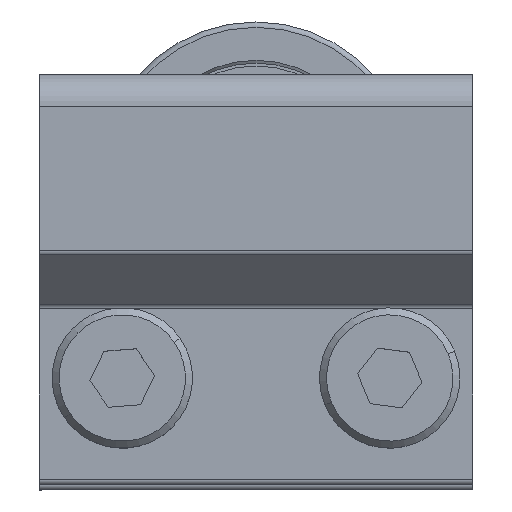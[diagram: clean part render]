
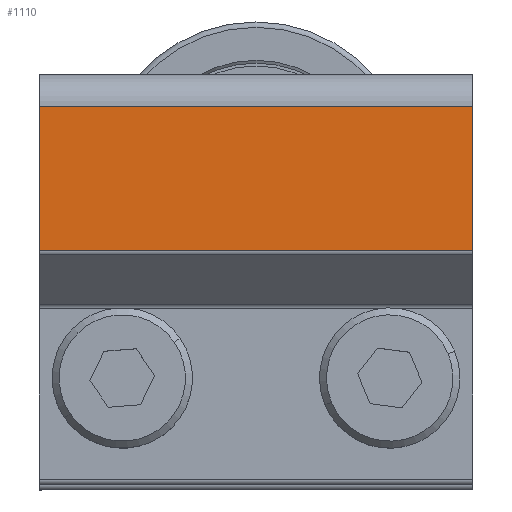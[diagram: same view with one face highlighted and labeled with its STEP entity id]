
A CAD part, top view. The second image highlights one B-rep face of the part: STEP entity #1110.
In plain terms, the highlighted planar face has unit normal (0, 0, 1) as drawn and (1, 0, 0) by its records, which use the part's own axes.
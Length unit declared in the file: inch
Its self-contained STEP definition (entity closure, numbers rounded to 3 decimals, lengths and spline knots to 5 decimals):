
#604=DIRECTION('',(0.,0.,1.));
#605=VECTOR('',#604,1.216);
#606=CARTESIAN_POINT('',(0.375,0.35921,-0.608));
#607=LINE('',#606,#605);
#608=DIRECTION('',(0.,-1.,0.));
#609=VECTOR('',#608,0.40379);
#610=CARTESIAN_POINT('',(0.375,0.763,-0.608));
#611=LINE('',#610,#609);
#689=DIRECTION('',(0.,-1.,0.));
#690=VECTOR('',#689,0.40379);
#691=CARTESIAN_POINT('',(0.375,0.763,0.608));
#692=LINE('',#691,#690);
#693=DIRECTION('',(0.,0.,-1.));
#694=VECTOR('',#693,1.216);
#695=CARTESIAN_POINT('',(0.375,0.763,0.608));
#696=LINE('',#695,#694);
#895=CARTESIAN_POINT('',(0.375,0.35921,-0.608));
#896=VERTEX_POINT('',#895);
#903=CARTESIAN_POINT('',(0.375,0.35921,0.608));
#904=VERTEX_POINT('',#903);
#915=CARTESIAN_POINT('',(0.375,0.763,-0.608));
#916=VERTEX_POINT('',#915);
#917=CARTESIAN_POINT('',(0.375,0.763,0.608));
#918=VERTEX_POINT('',#917);
#1098=CARTESIAN_POINT('',(0.375,0.763,0.608));
#1099=DIRECTION('',(-1.,0.,0.));
#1100=DIRECTION('',(0.,-1.,0.));
#1101=AXIS2_PLACEMENT_3D('',#1098,#1099,#1100);
#1102=PLANE('',#1101);
#1103=ORIENTED_EDGE('',*,*,#1015,.F.);
#1105=ORIENTED_EDGE('',*,*,#1104,.T.);
#1106=ORIENTED_EDGE('',*,*,#1056,.T.);
#1107=ORIENTED_EDGE('',*,*,#1046,.T.);
#1108=EDGE_LOOP('',(#1103,#1105,#1106,#1107));
#1109=FACE_OUTER_BOUND('',#1108,.F.);
#1015=EDGE_CURVE('',#918,#904,#692,.T.);
#1046=EDGE_CURVE('',#896,#904,#607,.T.);
#1056=EDGE_CURVE('',#916,#896,#611,.T.);
#1104=EDGE_CURVE('',#918,#916,#696,.T.);
#1110=ADVANCED_FACE('',(#1109),#1102,.F.);
